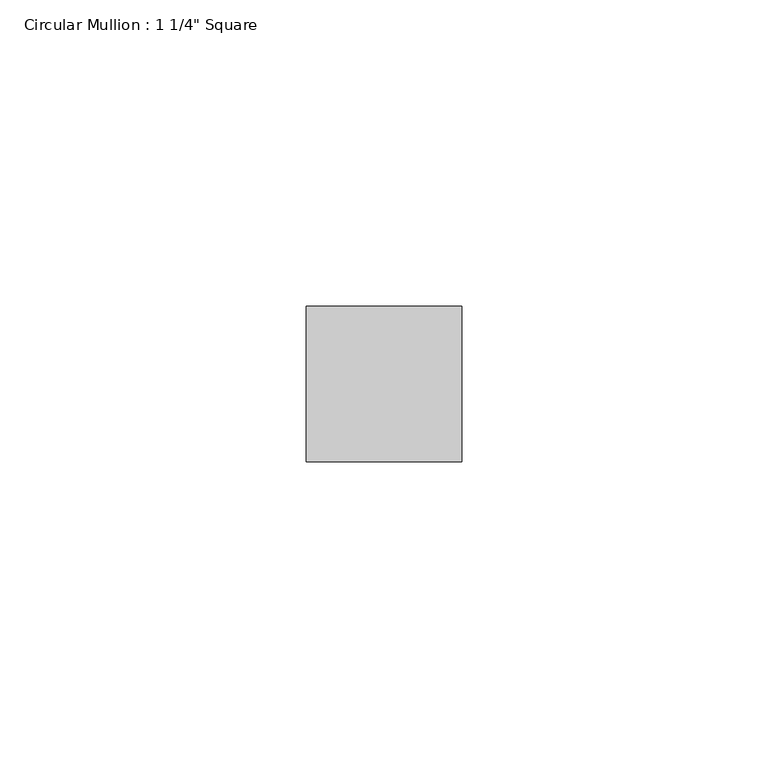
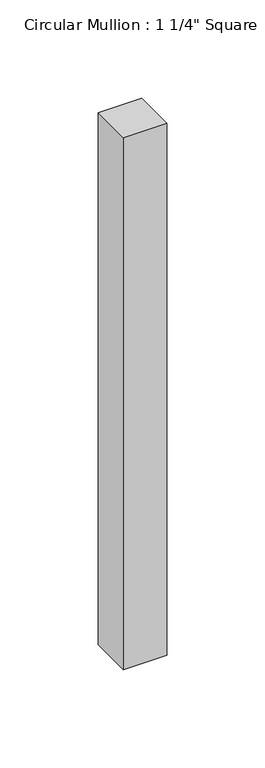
"""IFC4 building model written with IfcOpenShell, lengths in millimetres: member geometry."""

from ifc_helpers import new_model, si_unit, frame, origin, place, context, project, spatial, polyline, outline, extrude, source, transform, mapped, element, save


def member_3c10d71f(model_context):
    return source(origin(), model_context, "Body", "SweptSolid", [
        extrude(outline(polyline([(0.0, 12.7), (0.0, -12.7), (-25.4, -12.7), (-25.4, 12.7), (0.0, 12.7)])), frame((0.0, 0.0, -330.2), z_axis=(0.0, 0.0, 1.0), x_axis=(1.0, 0.0, 0.0)), (0.0, 0.0, 1.0), 330.2),
    ])


if __name__ == "__main__":
    model = new_model("IFC4")
    model_context = context("Model", 3, world=origin())
    ifc_project = project(units=[si_unit("LENGTHUNIT", "METRE", prefix="MILLI")], contexts=[model_context])
    site = spatial("IfcSite", under=ifc_project)
    building = spatial("IfcBuilding", under=site)
    placement = place(None, origin())
    member_shape = member_3c10d71f(model_context)
    element("IfcMember", 1, ObjectType="Circular Mullion : 1 1/4\" Square", at=placement, inside=building, context=model_context, shape_type="MappedRepresentation", body=[
        mapped(member_shape, transform((0.0, 0.0, 0.0), x_axis=(1.0, 0.0, 0.0), y_axis=(0.0, 1.0, 0.0), z_axis=(0.0, 0.0, 1.0))),
    ])
    save(model, "model.ifc")
